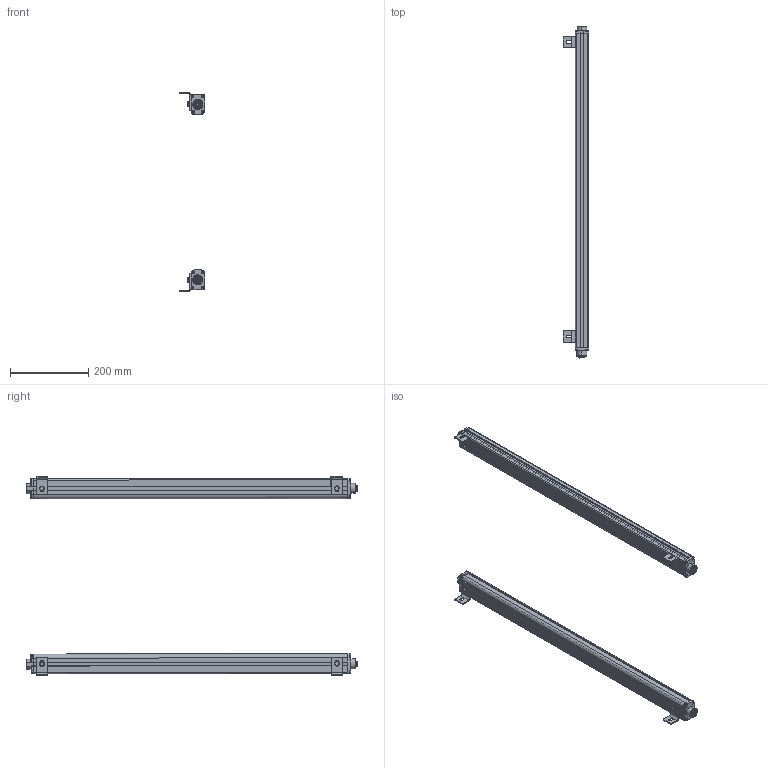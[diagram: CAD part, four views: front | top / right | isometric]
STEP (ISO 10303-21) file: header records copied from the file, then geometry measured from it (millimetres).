
FILE_DESCRIPTION (( 'STEP AP214' ), '1' );
FILE_NAME ('esn2040.STEP', '2018-03-09T10:35:28', ( '' ), ( '' ), 'SwSTEP 2.0', 'SolidWorks 2017', '' );
FILE_SCHEMA (( 'AUTOMOTIVE_DESIGN' ));
Length unit declared in the file: millimetre
Products named in the file (12): hk2040; esn22040; lx2040; esndg1z2040; pcb2040; m6-ls2040; hkct12040; esndg22040; lgp2040; esndg12040; esn2040; zj2040
Assembly tree (40 placements, depth 2):
  esn2040
    esn22040  x2
    esndg12040
    pcb2040  x2
    esndg22040  x2
    lgp2040  x2
    hkct12040  x2
    lx2040  x16
    hk2040  x4
    zj2040  x4
    m6-ls2040  x4
    esndg1z2040
Bounding box: 64.8 x 850.32 x 512.21 mm (x, y, z)
Volume: 1111725.7 mm3; surface area: 868105.4 mm2
Topology: 40 solids, 40 shells, 2231 faces, 5891 edges, 3758 vertices
Faces by surface type: cylinder 1073, plane 706, bspline 452
Entity records: 185658 total; most frequent: CARTESIAN_POINT 166950, ORIENTED_EDGE 4030, DIRECTION 3484, EDGE_CURVE 2015, VERTEX_POINT 1288, AXIS2_PLACEMENT_3D 1261, VECTOR 962, LINE 962
